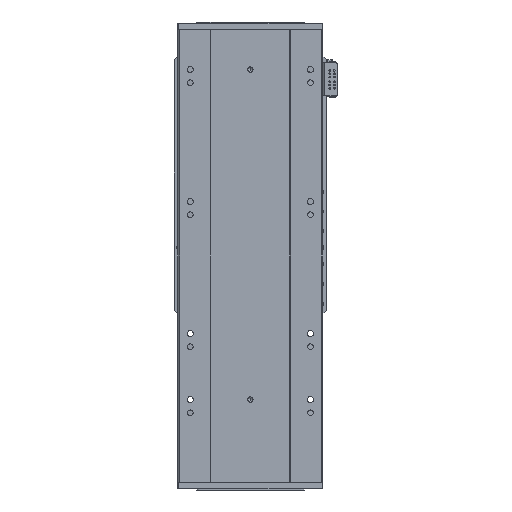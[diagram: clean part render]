
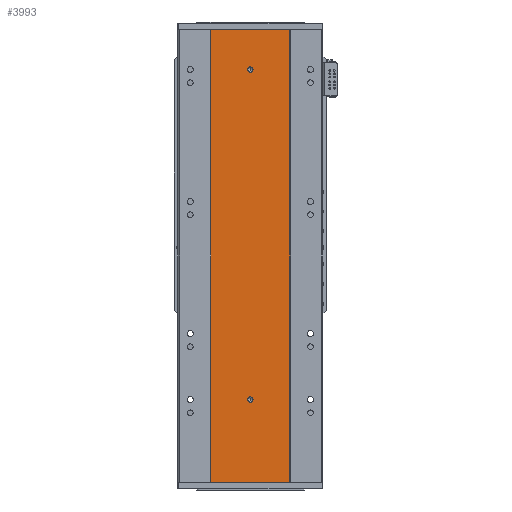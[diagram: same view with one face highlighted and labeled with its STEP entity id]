
A CAD part, front view. The second image highlights one B-rep face of the part: STEP entity #3993.
In plain terms, the highlighted planar face has unit normal (0, -1, 0).
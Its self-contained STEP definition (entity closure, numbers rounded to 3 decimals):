
#105 = DIRECTION ( 'NONE',  ( 0., 0., -1. ) ) ;
#496 = CARTESIAN_POINT ( 'NONE',  ( 0., 0., 621. ) ) ;
#623 = AXIS2_PLACEMENT_3D ( 'NONE', #30342, #34527, #21353 ) ;
#2856 = EDGE_CURVE ( 'NONE', #21854, #17452, #6009, .T. ) ;
#2890 = LINE ( 'NONE', #19312, #40347 ) ;
#3582 = CARTESIAN_POINT ( 'NONE',  ( 60., 0., 685. ) ) ;
#3993 = ADVANCED_FACE ( 'NONE', ( #14904, #12234, #45544 ), #12357, .F. ) ;
#4699 = EDGE_LOOP ( 'NONE', ( #26650, #6874, #44489, #20593 ) ) ;
#4777 = LINE ( 'NONE', #39954, #51665 ) ;
#5849 = EDGE_CURVE ( 'NONE', #45296, #29910, #5892, .T. ) ;
#5892 = CIRCLE ( 'NONE', #16842, 4. ) ;
#6009 = LINE ( 'NONE', #38719, #40022 ) ;
#6657 = DIRECTION ( 'NONE',  ( 1., 0., 0. ) ) ;
#6874 = ORIENTED_EDGE ( 'NONE', *, *, #11769, .F. ) ;
#7720 = CARTESIAN_POINT ( 'NONE',  ( -60., 0., 685. ) ) ;
#7737 = DIRECTION ( 'NONE',  ( 0., -1., 0. ) ) ;
#8967 = CIRCLE ( 'NONE', #623, 4. ) ;
#9926 = EDGE_CURVE ( 'NONE', #29910, #45296, #8967, .T. ) ;
#11769 = EDGE_CURVE ( 'NONE', #17452, #14464, #4777, .T. ) ;
#11838 = ORIENTED_EDGE ( 'NONE', *, *, #5849, .F. ) ;
#12234 = FACE_BOUND ( 'NONE', #55208, .T. ) ;
#12357 = PLANE ( 'NONE',  #18558 ) ;
#12868 = EDGE_LOOP ( 'NONE', ( #33147, #33697 ) ) ;
#14464 = VERTEX_POINT ( 'NONE', #16712 ) ;
#14904 = FACE_BOUND ( 'NONE', #12868, .T. ) ;
#15982 = VERTEX_POINT ( 'NONE', #496 ) ;
#16712 = CARTESIAN_POINT ( 'NONE',  ( 60., 0., 0. ) ) ;
#16842 = AXIS2_PLACEMENT_3D ( 'NONE', #38149, #7737, #34334 ) ;
#17452 = VERTEX_POINT ( 'NONE', #3582 ) ;
#18558 = AXIS2_PLACEMENT_3D ( 'NONE', #21228, #29833, #21418 ) ;
#19312 = CARTESIAN_POINT ( 'NONE',  ( -60., 0., 0. ) ) ;
#19534 = AXIS2_PLACEMENT_3D ( 'NONE', #26152, #30541, #105 ) ;
#20593 = ORIENTED_EDGE ( 'NONE', *, *, #28719, .T. ) ;
#21228 = CARTESIAN_POINT ( 'NONE',  ( -60., 0., 685. ) ) ;
#21353 = DIRECTION ( 'NONE',  ( 0., 0., -1. ) ) ;
#21418 = DIRECTION ( 'NONE',  ( 0., 0., 1. ) ) ;
#21854 = VERTEX_POINT ( 'NONE', #7720 ) ;
#22921 = VERTEX_POINT ( 'NONE', #36546 ) ;
#26152 = CARTESIAN_POINT ( 'NONE',  ( 0., 0., 625. ) ) ;
#26650 = ORIENTED_EDGE ( 'NONE', *, *, #32604, .T. ) ;
#26997 = DIRECTION ( 'NONE',  ( 0., 0., -1. ) ) ;
#28719 = EDGE_CURVE ( 'NONE', #21854, #22921, #40652, .T. ) ;
#29114 = CARTESIAN_POINT ( 'NONE',  ( -60., 0., 685. ) ) ;
#29833 = DIRECTION ( 'NONE',  ( 0., 1., 0. ) ) ;
#29910 = VERTEX_POINT ( 'NONE', #37904 ) ;
#30342 = CARTESIAN_POINT ( 'NONE',  ( 0., 0., 125. ) ) ;
#30541 = DIRECTION ( 'NONE',  ( 0., -1., 0. ) ) ;
#31567 = EDGE_CURVE ( 'NONE', #15982, #55007, #52656, .T. ) ;
#32565 = CARTESIAN_POINT ( 'NONE',  ( 0., 0., 625. ) ) ;
#32604 = EDGE_CURVE ( 'NONE', #22921, #14464, #2890, .T. ) ;
#33147 = ORIENTED_EDGE ( 'NONE', *, *, #31567, .F. ) ;
#33697 = ORIENTED_EDGE ( 'NONE', *, *, #48225, .F. ) ;
#34334 = DIRECTION ( 'NONE',  ( 0., 0., -1. ) ) ;
#34527 = DIRECTION ( 'NONE',  ( 0., -1., 0. ) ) ;
#36546 = CARTESIAN_POINT ( 'NONE',  ( -60., 0., 0. ) ) ;
#37245 = VECTOR ( 'NONE', #46232, 1000. ) ;
#37904 = CARTESIAN_POINT ( 'NONE',  ( 0., 0., 121. ) ) ;
#38149 = CARTESIAN_POINT ( 'NONE',  ( 0., 0., 125. ) ) ;
#38719 = CARTESIAN_POINT ( 'NONE',  ( -60., 0., 685. ) ) ;
#39954 = CARTESIAN_POINT ( 'NONE',  ( 60., 0., 685. ) ) ;
#40022 = VECTOR ( 'NONE', #48020, 1000. ) ;
#40347 = VECTOR ( 'NONE', #6657, 1000. ) ;
#40652 = LINE ( 'NONE', #29114, #37245 ) ;
#40964 = DIRECTION ( 'NONE',  ( 0., -1., 0. ) ) ;
#42551 = ORIENTED_EDGE ( 'NONE', *, *, #9926, .F. ) ;
#43750 = CIRCLE ( 'NONE', #44634, 4. ) ;
#44059 = CARTESIAN_POINT ( 'NONE',  ( 0., 0., 629. ) ) ;
#44489 = ORIENTED_EDGE ( 'NONE', *, *, #2856, .F. ) ;
#44634 = AXIS2_PLACEMENT_3D ( 'NONE', #32565, #40964, #45509 ) ;
#45296 = VERTEX_POINT ( 'NONE', #50467 ) ;
#45509 = DIRECTION ( 'NONE',  ( 0., 0., -1. ) ) ;
#45544 = FACE_OUTER_BOUND ( 'NONE', #4699, .T. ) ;
#46232 = DIRECTION ( 'NONE',  ( 0., 0., -1. ) ) ;
#48020 = DIRECTION ( 'NONE',  ( 1., 0., 0. ) ) ;
#48225 = EDGE_CURVE ( 'NONE', #55007, #15982, #43750, .T. ) ;
#50467 = CARTESIAN_POINT ( 'NONE',  ( 0., 0., 129. ) ) ;
#51665 = VECTOR ( 'NONE', #26997, 1000. ) ;
#52656 = CIRCLE ( 'NONE', #19534, 4. ) ;
#55007 = VERTEX_POINT ( 'NONE', #44059 ) ;
#55208 = EDGE_LOOP ( 'NONE', ( #42551, #11838 ) ) ;
